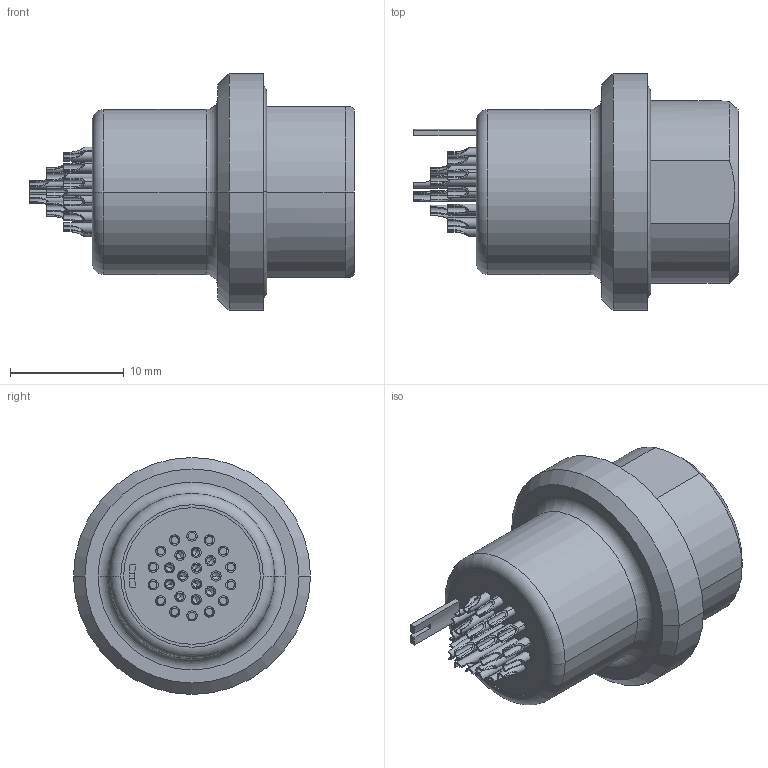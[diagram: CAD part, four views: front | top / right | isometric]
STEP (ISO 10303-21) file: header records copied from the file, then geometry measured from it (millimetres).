
FILE_DESCRIPTION((''),'2;1');
FILE_NAME('G82YAR-P26WCD0-000L_WITHOUT_HEX','2020-10-23T12:07:45',('EUnterhaslberger'),(''),'CREO PARAMETRIC BY PTC INC, 2018300','CREO PARAMETRIC BY PTC INC, 2018300','');
FILE_SCHEMA(('AP242_MANAGED_MODEL_BASED_3D_ENGINEERING_MIM_LF { 1 0 10303 442 1 1 4 }'));
Length unit declared in the file: millimetre
Products named in the file (1): G82YAR-P26WCD0-000L_WITHOUT_HEX
Bounding box: 28.5 x 20.8 x 20.8 mm (x, y, z)
Volume: 3786.2 mm3; surface area: 3708.3 mm2
Topology: 2 solids, 3 shells, 462 faces, 1188 edges, 767 vertices
Faces by surface type: cylinder 226, plane 166, cone 39, torus 30, sphere 1
Entity records: 18621 total; most frequent: CARTESIAN_POINT 4114, DIRECTION 2436, ORIENTED_EDGE 2328, EDGE_CURVE 1164, AXIS2_PLACEMENT_3D 950, VERTEX_POINT 767, VECTOR 536, LINE 536
